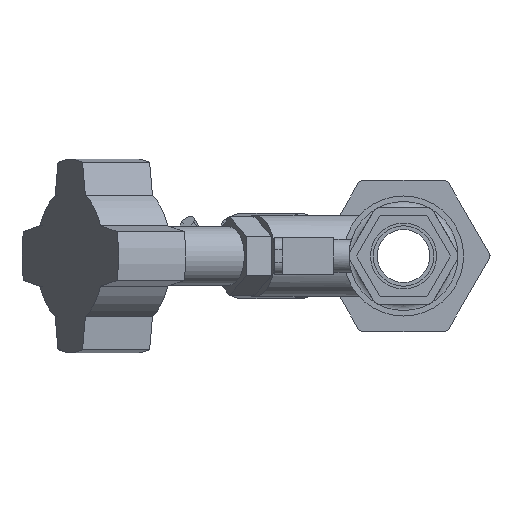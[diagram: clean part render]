
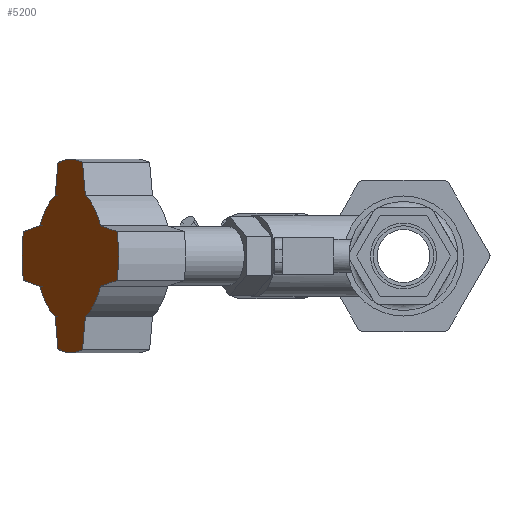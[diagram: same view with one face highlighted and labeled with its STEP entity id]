
A CAD part, left-side view. The second image highlights one B-rep face of the part: STEP entity #5200.
In plain terms, the highlighted planar face has unit normal (-0.5, 0.866, 0) as drawn and (0.5, -0.866, 0) by its records, which use the part's own axes.
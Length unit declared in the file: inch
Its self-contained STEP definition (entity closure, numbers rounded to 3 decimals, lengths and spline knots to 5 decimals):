
#270=PLANE('',#5855);
#521=FACE_OUTER_BOUND('',#821,.T.);
#821=EDGE_LOOP('',(#4272,#4273,#4274,#4275,#4276,#4277,#4278,#4279,#4280,
#4281,#4282,#4283,#4284,#4285,#4286,#4287));
#1218=LINE('',#8671,#1662);
#1222=LINE('',#8678,#1666);
#1225=LINE('',#8686,#1669);
#1229=LINE('',#8695,#1673);
#1233=LINE('',#8707,#1677);
#1237=LINE('',#8719,#1681);
#1241=LINE('',#8728,#1685);
#1245=LINE('',#8737,#1689);
#1662=VECTOR('',#7056,0.3937);
#1666=VECTOR('',#7062,0.3937);
#1669=VECTOR('',#7067,0.3937);
#1673=VECTOR('',#7073,0.3937);
#1677=VECTOR('',#7085,0.3937);
#1681=VECTOR('',#7097,0.3937);
#1685=VECTOR('',#7103,0.3937);
#1689=VECTOR('',#7109,0.3937);
#1968=CIRCLE('',#5828,0.7);
#1970=CIRCLE('',#5835,0.7);
#1972=CIRCLE('',#5839,0.7);
#1974=CIRCLE('',#5845,0.7);
#1976=CIRCLE('',#5848,1.);
#1978=CIRCLE('',#5851,1.);
#1980=CIRCLE('',#5854,1.);
#1981=CIRCLE('',#5856,1.);
#2378=VERTEX_POINT('',#8662);
#2379=VERTEX_POINT('',#8664);
#2381=VERTEX_POINT('',#8670);
#2383=VERTEX_POINT('',#8676);
#2386=VERTEX_POINT('',#8683);
#2387=VERTEX_POINT('',#8685);
#2390=VERTEX_POINT('',#8692);
#2391=VERTEX_POINT('',#8694);
#2394=VERTEX_POINT('',#8704);
#2395=VERTEX_POINT('',#8706);
#2397=VERTEX_POINT('',#8712);
#2399=VERTEX_POINT('',#8718);
#2402=VERTEX_POINT('',#8725);
#2403=VERTEX_POINT('',#8727);
#2406=VERTEX_POINT('',#8734);
#2407=VERTEX_POINT('',#8736);
#3013=EDGE_CURVE('',#2379,#2378,#1968,.T.);
#3016=EDGE_CURVE('',#2381,#2379,#1218,.T.);
#3020=EDGE_CURVE('',#2378,#2383,#1222,.T.);
#3023=EDGE_CURVE('',#2387,#2386,#1225,.T.);
#3027=EDGE_CURVE('',#2391,#2390,#1229,.T.);
#3030=EDGE_CURVE('',#2390,#2387,#1970,.T.);
#3033=EDGE_CURVE('',#2395,#2394,#1233,.T.);
#3036=EDGE_CURVE('',#2397,#2395,#1972,.T.);
#3039=EDGE_CURVE('',#2399,#2397,#1237,.T.);
#3043=EDGE_CURVE('',#2403,#2402,#1241,.T.);
#3047=EDGE_CURVE('',#2407,#2406,#1245,.T.);
#3050=EDGE_CURVE('',#2406,#2403,#1974,.T.);
#3052=EDGE_CURVE('',#2407,#2394,#1976,.T.);
#3054=EDGE_CURVE('',#2391,#2383,#1978,.T.);
#3056=EDGE_CURVE('',#2399,#2386,#1980,.T.);
#3057=EDGE_CURVE('',#2381,#2402,#1981,.T.);
#4272=ORIENTED_EDGE('',*,*,#3016,.T.);
#4273=ORIENTED_EDGE('',*,*,#3013,.T.);
#4274=ORIENTED_EDGE('',*,*,#3020,.T.);
#4275=ORIENTED_EDGE('',*,*,#3054,.F.);
#4276=ORIENTED_EDGE('',*,*,#3027,.T.);
#4277=ORIENTED_EDGE('',*,*,#3030,.T.);
#4278=ORIENTED_EDGE('',*,*,#3023,.T.);
#4279=ORIENTED_EDGE('',*,*,#3056,.F.);
#4280=ORIENTED_EDGE('',*,*,#3039,.T.);
#4281=ORIENTED_EDGE('',*,*,#3036,.T.);
#4282=ORIENTED_EDGE('',*,*,#3033,.T.);
#4283=ORIENTED_EDGE('',*,*,#3052,.F.);
#4284=ORIENTED_EDGE('',*,*,#3047,.T.);
#4285=ORIENTED_EDGE('',*,*,#3050,.T.);
#4286=ORIENTED_EDGE('',*,*,#3043,.T.);
#4287=ORIENTED_EDGE('',*,*,#3057,.F.);
#5200=ADVANCED_FACE('',(#521),#270,.T.);
#5828=AXIS2_PLACEMENT_3D('',#8665,#7050,#7051);
#5835=AXIS2_PLACEMENT_3D('',#8699,#7079,#7080);
#5839=AXIS2_PLACEMENT_3D('',#8713,#7091,#7092);
#5845=AXIS2_PLACEMENT_3D('',#8741,#7115,#7116);
#5848=AXIS2_PLACEMENT_3D('',#8744,#7121,#7122);
#5851=AXIS2_PLACEMENT_3D('',#8747,#7127,#7128);
#5854=AXIS2_PLACEMENT_3D('',#8750,#7133,#7134);
#5855=AXIS2_PLACEMENT_3D('',#8751,#7135,#7136);
#5856=AXIS2_PLACEMENT_3D('',#8752,#7137,#7138);
#7050=DIRECTION('center_axis',(0.5,-0.866,0.));
#7051=DIRECTION('ref_axis',(-0.775,-0.447,-0.446));
#7056=DIRECTION('',(0.853,0.492,-0.174));
#7062=DIRECTION('',(0.15,0.087,-0.985));
#7067=DIRECTION('',(0.853,0.492,0.174));
#7073=DIRECTION('',(0.15,0.087,0.985));
#7079=DIRECTION('center_axis',(0.5,-0.866,0.));
#7080=DIRECTION('ref_axis',(0.387,0.223,-0.895));
#7085=DIRECTION('',(-0.15,-0.087,0.985));
#7091=DIRECTION('center_axis',(0.5,-0.866,0.));
#7092=DIRECTION('ref_axis',(-0.775,-0.447,-0.446));
#7097=DIRECTION('',(-0.853,-0.492,0.174));
#7103=DIRECTION('',(-0.853,-0.492,-0.174));
#7109=DIRECTION('',(-0.15,-0.087,-0.985));
#7115=DIRECTION('center_axis',(0.5,-0.866,0.));
#7116=DIRECTION('ref_axis',(-0.387,-0.223,0.895));
#7121=DIRECTION('center_axis',(-0.5,0.866,0.));
#7122=DIRECTION('ref_axis',(0.866,0.5,0.));
#7127=DIRECTION('center_axis',(-0.5,0.866,0.));
#7128=DIRECTION('ref_axis',(0.866,0.5,0.));
#7133=DIRECTION('center_axis',(-0.5,0.866,0.));
#7134=DIRECTION('ref_axis',(0.866,0.5,0.));
#7135=DIRECTION('center_axis',(0.5,-0.866,0.));
#7136=DIRECTION('ref_axis',(0.,0.,-1.));
#7137=DIRECTION('center_axis',(-0.5,0.866,0.));
#7138=DIRECTION('ref_axis',(0.866,0.5,0.));
#8662=CARTESIAN_POINT('',(1.71545,-3.59625,-0.62637));
#8664=CARTESIAN_POINT('',(1.44363,-3.75319,-0.3125));
#8665=CARTESIAN_POINT('Origin',(1.98608,-3.44,0.));
#8670=CARTESIAN_POINT('',(1.14808,-3.92382,-0.25233));
#8671=CARTESIAN_POINT('',(1.11581,-3.94245,-0.24575));
#8676=CARTESIAN_POINT('',(1.76757,-3.56616,-0.96764));
#8678=CARTESIAN_POINT('',(1.66009,-3.62821,-0.26385));
#8683=CARTESIAN_POINT('',(2.82409,-2.95618,-0.25233));
#8685=CARTESIAN_POINT('',(2.52854,-3.12681,-0.3125));
#8686=CARTESIAN_POINT('',(1.86868,-3.50779,-0.44685));
#8692=CARTESIAN_POINT('',(2.25672,-3.28375,-0.62637));
#8694=CARTESIAN_POINT('',(2.2046,-3.31384,-0.96764));
#8695=CARTESIAN_POINT('',(2.25991,-3.28191,-0.60549));
#8699=CARTESIAN_POINT('Origin',(1.98608,-3.44,0.));
#8704=CARTESIAN_POINT('',(2.2046,-3.31384,0.96764));
#8706=CARTESIAN_POINT('',(2.25672,-3.28375,0.62637));
#8707=CARTESIAN_POINT('',(2.28596,-3.26687,0.43486));
#8712=CARTESIAN_POINT('',(2.52854,-3.12681,0.3125));
#8713=CARTESIAN_POINT('Origin',(1.98608,-3.44,0.));
#8718=CARTESIAN_POINT('',(2.82409,-2.95618,0.25233));
#8719=CARTESIAN_POINT('',(2.01645,-3.42247,0.41676));
#8725=CARTESIAN_POINT('',(1.14808,-3.92382,0.25233));
#8727=CARTESIAN_POINT('',(1.44363,-3.75319,0.3125));
#8728=CARTESIAN_POINT('',(1.26358,-3.85714,0.27584));
#8734=CARTESIAN_POINT('',(1.71545,-3.59625,0.62637));
#8736=CARTESIAN_POINT('',(1.76757,-3.56616,0.96764));
#8737=CARTESIAN_POINT('',(1.68615,-3.61317,0.43448));
#8741=CARTESIAN_POINT('Origin',(1.98608,-3.44,0.));
#8744=CARTESIAN_POINT('Origin',(1.98608,-3.44,0.));
#8747=CARTESIAN_POINT('Origin',(1.98608,-3.44,0.));
#8750=CARTESIAN_POINT('Origin',(1.98608,-3.44,0.));
#8751=CARTESIAN_POINT('Origin',(1.12006,-3.94,0.));
#8752=CARTESIAN_POINT('Origin',(1.98608,-3.44,0.));
